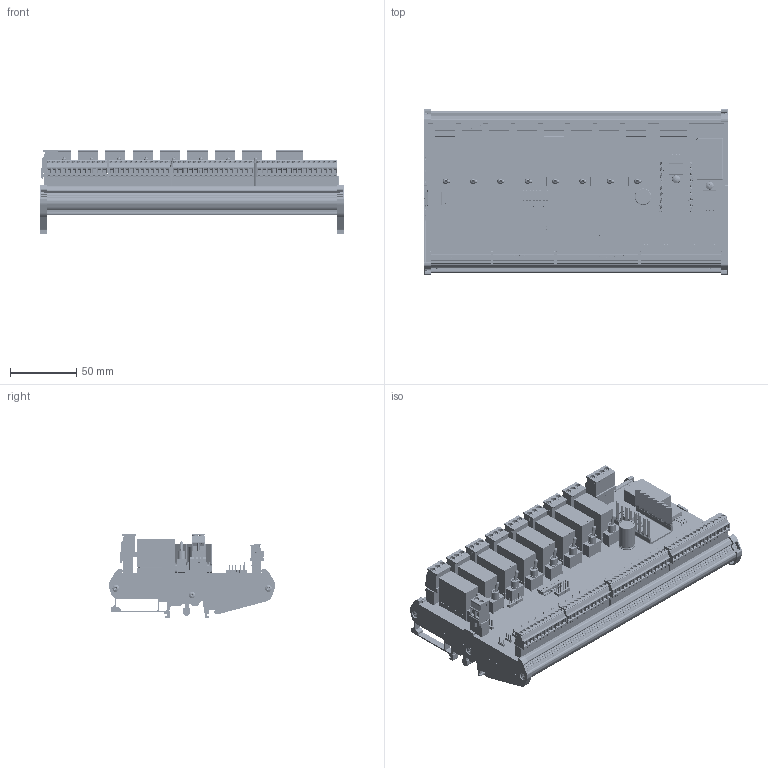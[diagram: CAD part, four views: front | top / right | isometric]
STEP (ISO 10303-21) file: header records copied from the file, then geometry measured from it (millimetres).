
FILE_DESCRIPTION(/* description */ (''),/* implementation_level */ '2;1');
FILE_NAME(/* name */ 'C:/Temp/STEP/COMBI-36_V220.step',/* time_stamp */ '2020-04-03T13:34:54+03:00',/* author */ (''),/* organization */ (''),/* preprocessor_version */ 'ST-DEVELOPER v18',/* originating_system */ 'Autodesk Translation Framework v8.12.0.6',/* authorisation */ '');
FILE_SCHEMA (('AUTOMOTIVE_DESIGN { 1 0 10303 214 3 1 1 }'));
Products named in the file (1): COMBI-36_V220
Bounding box: 230 x 125.6 x 63.92 mm (x, y, z)
Surface area: 205553.6 mm2
Topology: 2 solids, 2257 shells, 9862 faces, 49251 edges, 40814 vertices
Faces by surface type: plane 6576, cylinder 3032, sphere 129, bspline 82, cone 33, torus 10
Full cylindrical faces by diameter (mm): 0.296 x3, 0.434 x1, 0.457 x1, 0.5 x2, 0.8 x5, 1 x2, 1.18 x11, 1.2 x30, 1.4 x4, 1.6 x1, 1.71 x3, 2 x23, 2.8 x11, 2.9 x56, 3.4 x2, 3.783 x2, 4 x31, 5.15 x5, 6 x4, 10.5 x1
Entity records: 568496 total; most frequent: CARTESIAN_POINT 166439, DIRECTION 81022, ORIENTED_EDGE 64236, EDGE_CURVE 49162, VERTEX_POINT 40784, LINE 35312, VECTOR 35312, AXIS2_PLACEMENT_3D 22855
